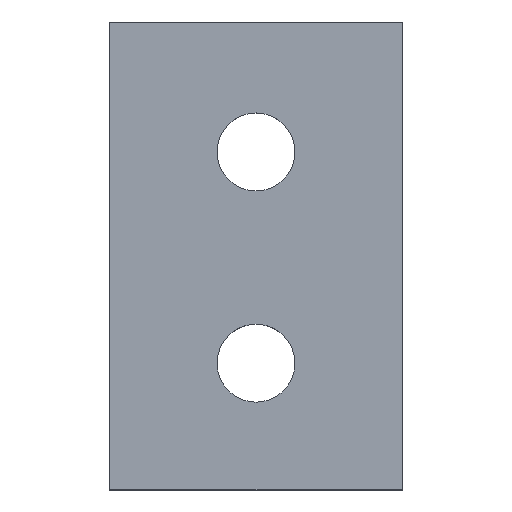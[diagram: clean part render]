
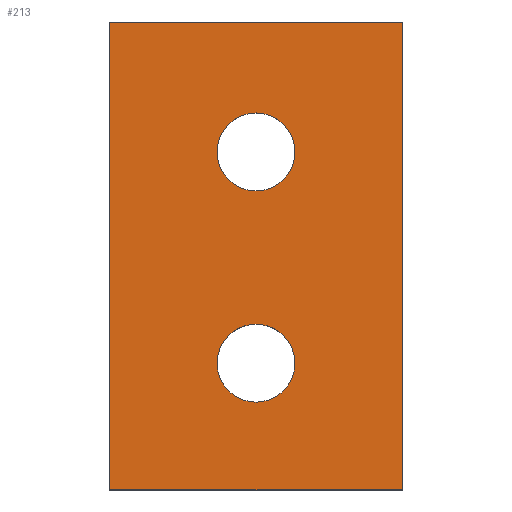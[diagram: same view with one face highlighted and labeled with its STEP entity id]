
A CAD part, top view. The second image highlights one B-rep face of the part: STEP entity #213.
In plain terms, the highlighted planar face has unit normal (0, 0, 1).
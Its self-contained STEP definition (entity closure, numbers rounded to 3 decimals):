
#24 = VERTEX_POINT('',#25);
#25 = CARTESIAN_POINT('',(24.13,59.8,19.55));
#32 = PLANE('',#33);
#33 = AXIS2_PLACEMENT_3D('',#34,#35,#36);
#34 = CARTESIAN_POINT('',(24.13,59.8,17.95));
#35 = DIRECTION('',(-1.,-0.,0.));
#36 = DIRECTION('',(0.,0.,-1.));
#44 = PLANE('',#45);
#45 = AXIS2_PLACEMENT_3D('',#46,#47,#48);
#46 = CARTESIAN_POINT('',(24.13,59.8,17.95));
#47 = DIRECTION('',(-0.,1.,0.));
#48 = DIRECTION('',(0.,0.,-1.));
#85 = VERTEX_POINT('',#86);
#86 = CARTESIAN_POINT('',(24.13,74.2,19.55));
#100 = PLANE('',#101);
#101 = AXIS2_PLACEMENT_3D('',#102,#103,#104);
#102 = CARTESIAN_POINT('',(24.13,74.2,17.95));
#103 = DIRECTION('',(-0.,1.,0.));
#104 = DIRECTION('',(0.,0.,-1.));
#112 = EDGE_CURVE('',#24,#85,#113,.T.);
#113 = SURFACE_CURVE('',#114,(#118,#125),.PCURVE_S1.);
#114 = LINE('',#115,#116);
#115 = CARTESIAN_POINT('',(24.13,59.8,19.55));
#116 = VECTOR('',#117,1.);
#117 = DIRECTION('',(-0.,1.,0.));
#118 = PCURVE('',#32,#119);
#119 = DEFINITIONAL_REPRESENTATION('',(#120),#124);
#120 = LINE('',#121,#122);
#121 = CARTESIAN_POINT('',(-1.6,-0.));
#122 = VECTOR('',#123,1.);
#123 = DIRECTION('',(-0.,-1.));
#124 = ( GEOMETRIC_REPRESENTATION_CONTEXT(2) 
PARAMETRIC_REPRESENTATION_CONTEXT() REPRESENTATION_CONTEXT('2D SPACE',''
  ) );
#125 = PCURVE('',#126,#131);
#126 = PLANE('',#127);
#127 = AXIS2_PLACEMENT_3D('',#128,#129,#130);
#128 = CARTESIAN_POINT('',(24.13,59.8,19.55));
#129 = DIRECTION('',(0.,0.,1.));
#130 = DIRECTION('',(1.,0.,0.));
#131 = DEFINITIONAL_REPRESENTATION('',(#132),#136);
#132 = LINE('',#133,#134);
#133 = CARTESIAN_POINT('',(0.,-0.));
#134 = VECTOR('',#135,1.);
#135 = DIRECTION('',(-0.,1.));
#136 = ( GEOMETRIC_REPRESENTATION_CONTEXT(2) 
PARAMETRIC_REPRESENTATION_CONTEXT() REPRESENTATION_CONTEXT('2D SPACE',''
  ) );
#165 = EDGE_CURVE('',#24,#166,#168,.T.);
#166 = VERTEX_POINT('',#167);
#167 = CARTESIAN_POINT('',(15.13,59.8,19.55));
#168 = SURFACE_CURVE('',#169,(#173,#180),.PCURVE_S1.);
#169 = LINE('',#170,#171);
#170 = CARTESIAN_POINT('',(24.13,59.8,19.55));
#171 = VECTOR('',#172,1.);
#172 = DIRECTION('',(-1.,-0.,0.));
#173 = PCURVE('',#44,#174);
#174 = DEFINITIONAL_REPRESENTATION('',(#175),#179);
#175 = LINE('',#176,#177);
#176 = CARTESIAN_POINT('',(-1.6,-0.));
#177 = VECTOR('',#178,1.);
#178 = DIRECTION('',(-0.,1.));
#179 = ( GEOMETRIC_REPRESENTATION_CONTEXT(2) 
PARAMETRIC_REPRESENTATION_CONTEXT() REPRESENTATION_CONTEXT('2D SPACE',''
  ) );
#180 = PCURVE('',#126,#181);
#181 = DEFINITIONAL_REPRESENTATION('',(#182),#186);
#182 = LINE('',#183,#184);
#183 = CARTESIAN_POINT('',(0.,-0.));
#184 = VECTOR('',#185,1.);
#185 = DIRECTION('',(-1.,0.));
#186 = ( GEOMETRIC_REPRESENTATION_CONTEXT(2) 
PARAMETRIC_REPRESENTATION_CONTEXT() REPRESENTATION_CONTEXT('2D SPACE',''
  ) );
#202 = PLANE('',#203);
#203 = AXIS2_PLACEMENT_3D('',#204,#205,#206);
#204 = CARTESIAN_POINT('',(15.13,59.8,17.95));
#205 = DIRECTION('',(-1.,-0.,0.));
#206 = DIRECTION('',(0.,0.,-1.));
#213 = ADVANCED_FACE('',(#214,#262,#297),#126,.T.);
#214 = FACE_BOUND('',#215,.F.);
#215 = EDGE_LOOP('',(#216,#217,#218,#241));
#216 = ORIENTED_EDGE('',*,*,#112,.F.);
#217 = ORIENTED_EDGE('',*,*,#165,.T.);
#218 = ORIENTED_EDGE('',*,*,#219,.T.);
#219 = EDGE_CURVE('',#166,#220,#222,.T.);
#220 = VERTEX_POINT('',#221);
#221 = CARTESIAN_POINT('',(15.13,74.2,19.55));
#222 = SURFACE_CURVE('',#223,(#227,#234),.PCURVE_S1.);
#223 = LINE('',#224,#225);
#224 = CARTESIAN_POINT('',(15.13,59.8,19.55));
#225 = VECTOR('',#226,1.);
#226 = DIRECTION('',(-0.,1.,0.));
#227 = PCURVE('',#126,#228);
#228 = DEFINITIONAL_REPRESENTATION('',(#229),#233);
#229 = LINE('',#230,#231);
#230 = CARTESIAN_POINT('',(-9.,0.));
#231 = VECTOR('',#232,1.);
#232 = DIRECTION('',(-0.,1.));
#233 = ( GEOMETRIC_REPRESENTATION_CONTEXT(2) 
PARAMETRIC_REPRESENTATION_CONTEXT() REPRESENTATION_CONTEXT('2D SPACE',''
  ) );
#234 = PCURVE('',#202,#235);
#235 = DEFINITIONAL_REPRESENTATION('',(#236),#240);
#236 = LINE('',#237,#238);
#237 = CARTESIAN_POINT('',(-1.6,-0.));
#238 = VECTOR('',#239,1.);
#239 = DIRECTION('',(-0.,-1.));
#240 = ( GEOMETRIC_REPRESENTATION_CONTEXT(2) 
PARAMETRIC_REPRESENTATION_CONTEXT() REPRESENTATION_CONTEXT('2D SPACE',''
  ) );
#241 = ORIENTED_EDGE('',*,*,#242,.F.);
#242 = EDGE_CURVE('',#85,#220,#243,.T.);
#243 = SURFACE_CURVE('',#244,(#248,#255),.PCURVE_S1.);
#244 = LINE('',#245,#246);
#245 = CARTESIAN_POINT('',(24.13,74.2,19.55));
#246 = VECTOR('',#247,1.);
#247 = DIRECTION('',(-1.,-0.,0.));
#248 = PCURVE('',#126,#249);
#249 = DEFINITIONAL_REPRESENTATION('',(#250),#254);
#250 = LINE('',#251,#252);
#251 = CARTESIAN_POINT('',(0.,14.4));
#252 = VECTOR('',#253,1.);
#253 = DIRECTION('',(-1.,0.));
#254 = ( GEOMETRIC_REPRESENTATION_CONTEXT(2) 
PARAMETRIC_REPRESENTATION_CONTEXT() REPRESENTATION_CONTEXT('2D SPACE',''
  ) );
#255 = PCURVE('',#100,#256);
#256 = DEFINITIONAL_REPRESENTATION('',(#257),#261);
#257 = LINE('',#258,#259);
#258 = CARTESIAN_POINT('',(-1.6,-0.));
#259 = VECTOR('',#260,1.);
#260 = DIRECTION('',(-0.,1.));
#261 = ( GEOMETRIC_REPRESENTATION_CONTEXT(2) 
PARAMETRIC_REPRESENTATION_CONTEXT() REPRESENTATION_CONTEXT('2D SPACE',''
  ) );
#262 = FACE_BOUND('',#263,.F.);
#263 = EDGE_LOOP('',(#264));
#264 = ORIENTED_EDGE('',*,*,#265,.F.);
#265 = EDGE_CURVE('',#266,#266,#268,.T.);
#266 = VERTEX_POINT('',#267);
#267 = CARTESIAN_POINT('',(18.43,63.7,19.55));
#268 = SURFACE_CURVE('',#269,(#274,#285),.PCURVE_S1.);
#269 = CIRCLE('',#270,1.2);
#270 = AXIS2_PLACEMENT_3D('',#271,#272,#273);
#271 = CARTESIAN_POINT('',(19.63,63.7,19.55));
#272 = DIRECTION('',(0.,0.,-1.));
#273 = DIRECTION('',(-1.,-0.,-0.));
#274 = PCURVE('',#126,#275);
#275 = DEFINITIONAL_REPRESENTATION('',(#276),#284);
#276 = ( BOUNDED_CURVE() B_SPLINE_CURVE(2,(#277,#278,#279,#280,#281,#282
,#283),.UNSPECIFIED.,.T.,.F.) B_SPLINE_CURVE_WITH_KNOTS((1,2,2,2,2,1),(
    -2.094,0.,2.094,4.189,6.283,
8.378),.UNSPECIFIED.) CURVE() GEOMETRIC_REPRESENTATION_ITEM() 
RATIONAL_B_SPLINE_CURVE((1.,0.5,1.,0.5,1.,0.5,1.)) REPRESENTATION_ITEM(
  '') );
#277 = CARTESIAN_POINT('',(-5.7,3.9));
#278 = CARTESIAN_POINT('',(-5.7,5.978));
#279 = CARTESIAN_POINT('',(-3.9,4.939));
#280 = CARTESIAN_POINT('',(-2.1,3.9));
#281 = CARTESIAN_POINT('',(-3.9,2.861));
#282 = CARTESIAN_POINT('',(-5.7,1.822));
#283 = CARTESIAN_POINT('',(-5.7,3.9));
#284 = ( GEOMETRIC_REPRESENTATION_CONTEXT(2) 
PARAMETRIC_REPRESENTATION_CONTEXT() REPRESENTATION_CONTEXT('2D SPACE',''
  ) );
#285 = PCURVE('',#286,#291);
#286 = CYLINDRICAL_SURFACE('',#287,1.2);
#287 = AXIS2_PLACEMENT_3D('',#288,#289,#290);
#288 = CARTESIAN_POINT('',(19.63,63.7,16.5));
#289 = DIRECTION('',(-0.,-0.,1.));
#290 = DIRECTION('',(-1.,-0.,-0.));
#291 = DEFINITIONAL_REPRESENTATION('',(#292),#296);
#292 = LINE('',#293,#294);
#293 = CARTESIAN_POINT('',(-0.,3.05));
#294 = VECTOR('',#295,1.);
#295 = DIRECTION('',(-1.,0.));
#296 = ( GEOMETRIC_REPRESENTATION_CONTEXT(2) 
PARAMETRIC_REPRESENTATION_CONTEXT() REPRESENTATION_CONTEXT('2D SPACE',''
  ) );
#297 = FACE_BOUND('',#298,.F.);
#298 = EDGE_LOOP('',(#299));
#299 = ORIENTED_EDGE('',*,*,#300,.F.);
#300 = EDGE_CURVE('',#301,#301,#303,.T.);
#301 = VERTEX_POINT('',#302);
#302 = CARTESIAN_POINT('',(18.43,70.2,19.55));
#303 = SURFACE_CURVE('',#304,(#309,#320),.PCURVE_S1.);
#304 = CIRCLE('',#305,1.2);
#305 = AXIS2_PLACEMENT_3D('',#306,#307,#308);
#306 = CARTESIAN_POINT('',(19.63,70.2,19.55));
#307 = DIRECTION('',(0.,0.,-1.));
#308 = DIRECTION('',(-1.,-0.,-0.));
#309 = PCURVE('',#126,#310);
#310 = DEFINITIONAL_REPRESENTATION('',(#311),#319);
#311 = ( BOUNDED_CURVE() B_SPLINE_CURVE(2,(#312,#313,#314,#315,#316,#317
,#318),.UNSPECIFIED.,.T.,.F.) B_SPLINE_CURVE_WITH_KNOTS((1,2,2,2,2,1),(
    -2.094,0.,2.094,4.189,6.283,
8.378),.UNSPECIFIED.) CURVE() GEOMETRIC_REPRESENTATION_ITEM() 
RATIONAL_B_SPLINE_CURVE((1.,0.5,1.,0.5,1.,0.5,1.)) REPRESENTATION_ITEM(
  '') );
#312 = CARTESIAN_POINT('',(-5.7,10.4));
#313 = CARTESIAN_POINT('',(-5.7,12.478));
#314 = CARTESIAN_POINT('',(-3.9,11.439));
#315 = CARTESIAN_POINT('',(-2.1,10.4));
#316 = CARTESIAN_POINT('',(-3.9,9.361));
#317 = CARTESIAN_POINT('',(-5.7,8.322));
#318 = CARTESIAN_POINT('',(-5.7,10.4));
#319 = ( GEOMETRIC_REPRESENTATION_CONTEXT(2) 
PARAMETRIC_REPRESENTATION_CONTEXT() REPRESENTATION_CONTEXT('2D SPACE',''
  ) );
#320 = PCURVE('',#321,#326);
#321 = CYLINDRICAL_SURFACE('',#322,1.2);
#322 = AXIS2_PLACEMENT_3D('',#323,#324,#325);
#323 = CARTESIAN_POINT('',(19.63,70.2,16.5));
#324 = DIRECTION('',(-0.,-0.,1.));
#325 = DIRECTION('',(-1.,-0.,-0.));
#326 = DEFINITIONAL_REPRESENTATION('',(#327),#331);
#327 = LINE('',#328,#329);
#328 = CARTESIAN_POINT('',(-0.,3.05));
#329 = VECTOR('',#330,1.);
#330 = DIRECTION('',(-1.,0.));
#331 = ( GEOMETRIC_REPRESENTATION_CONTEXT(2) 
PARAMETRIC_REPRESENTATION_CONTEXT() REPRESENTATION_CONTEXT('2D SPACE',''
  ) );
